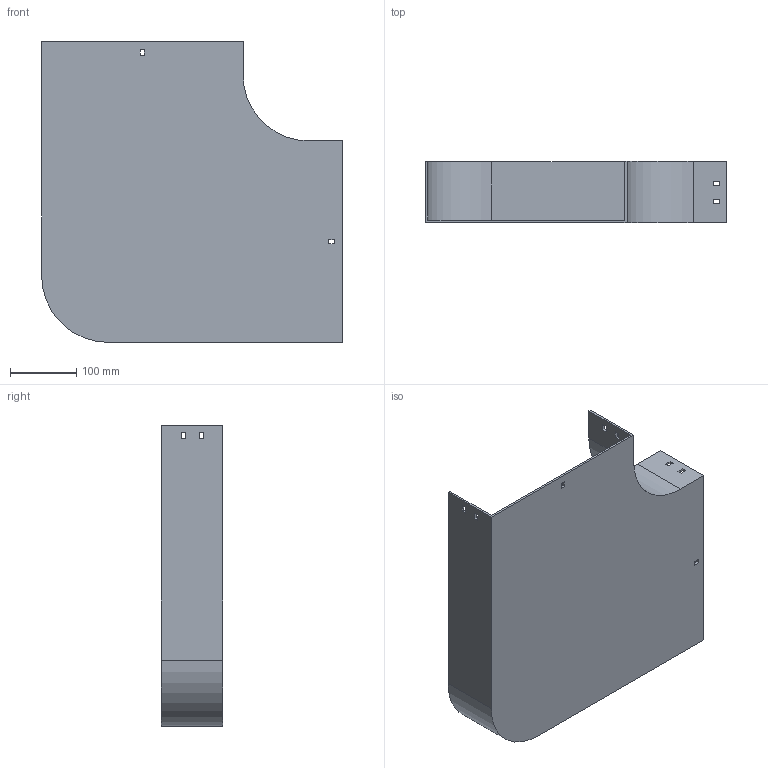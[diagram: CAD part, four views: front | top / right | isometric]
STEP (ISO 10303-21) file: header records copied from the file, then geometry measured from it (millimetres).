
FILE_DESCRIPTION (( 'STEP AP214' ), '1' );
FILE_NAME ('10B1I300.step', '2025-02-21T09:42:09', ( '' ), ( '' ), 'SwSTEP 2.0', 'SolidWorks 2023', '' );
FILE_SCHEMA (( 'AUTOMOTIVE_DESIGN' ));
Length unit declared in the file: millimetre
Products named in the file (1): 10B1I300
Bounding box: 454 x 92.5 x 454 mm (x, y, z)
Volume: 989839.1 mm3; surface area: 574092.9 mm2
Topology: 1 solids, 1 shells, 58 faces, 168 edges, 112 vertices
Faces by surface type: plane 54, cylinder 4
Entity records: 1943 total; most frequent: CARTESIAN_POINT 339, ORIENTED_EDGE 336, DIRECTION 294, EDGE_CURVE 168, LINE 160, VECTOR 160, VERTEX_POINT 112, EDGE_LOOP 78
